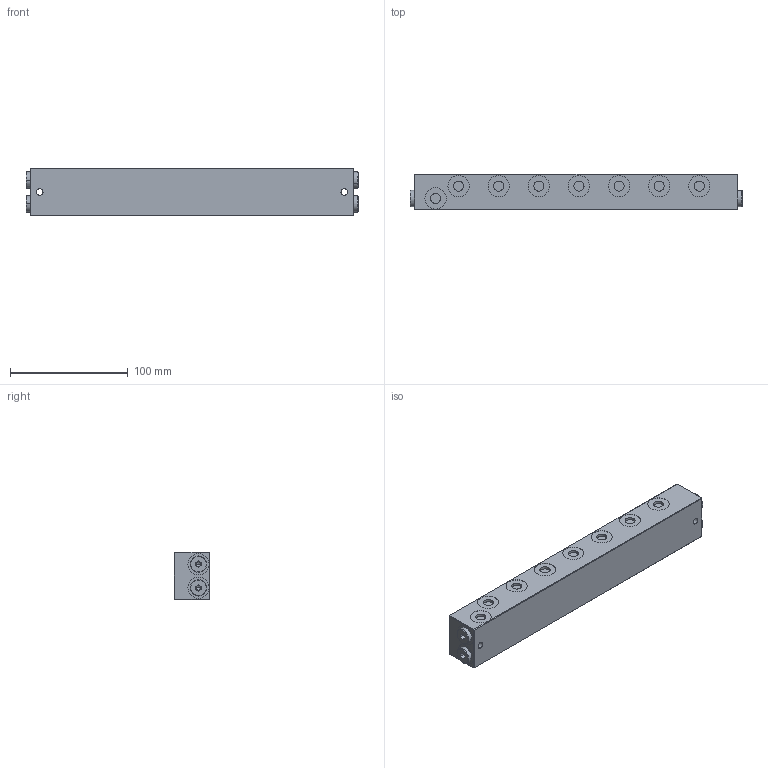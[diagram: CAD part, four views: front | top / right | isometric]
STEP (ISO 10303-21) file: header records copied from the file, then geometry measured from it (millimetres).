
FILE_DESCRIPTION (( 'STEP AP214' ), '1' );
FILE_NAME ('B3_7.STEP', '2017-05-01T13:32:40', ( '' ), ( '' ), 'SwSTEP 2.0', 'SolidWorks 2016', '' );
FILE_SCHEMA (( 'AUTOMOTIVE_DESIGN' ));
Length unit declared in the file: millimetre
Products named in the file (1): B3_7
Bounding box: 281.4 x 30 x 40 mm (x, y, z)
Volume: 324498.3 mm3; surface area: 46554.1 mm2
Topology: 5 solids, 9 shells, 409 faces, 854 edges, 554 vertices
Faces by surface type: cylinder 222, plane 163, cone 16, torus 8
Entity records: 14912 total; most frequent: DIRECTION 2164, CARTESIAN_POINT 1818, ORIENTED_EDGE 1708, AXIS2_PLACEMENT_3D 900, EDGE_CURVE 854, VERTEX_POINT 554, EDGE_LOOP 520, CIRCLE 490
